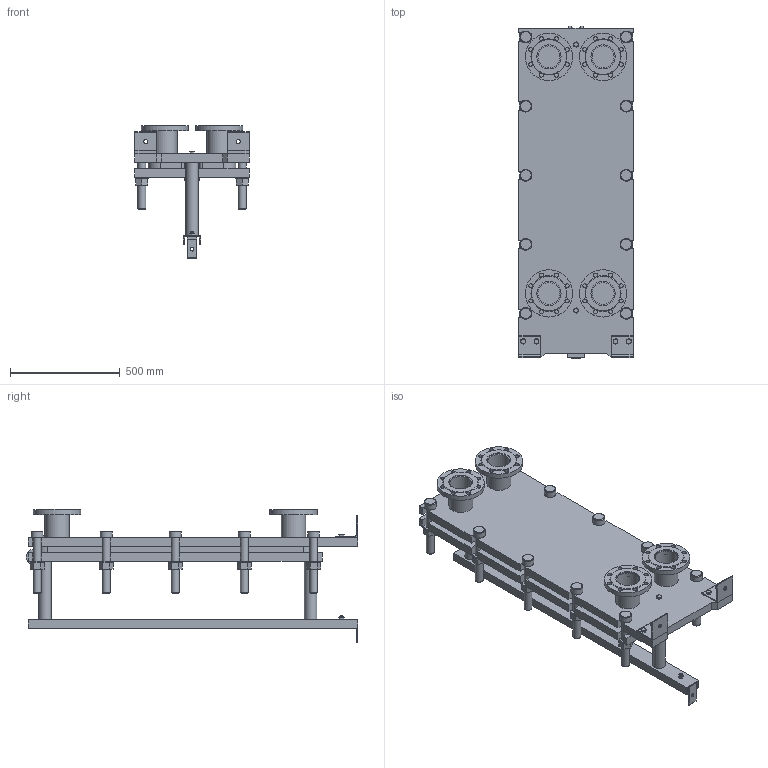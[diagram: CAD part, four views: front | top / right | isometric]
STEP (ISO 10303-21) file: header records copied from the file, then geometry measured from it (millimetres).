
FILE_DESCRIPTION(/* description */ (''),/* implementation_level */ '2;1');
FILE_NAME(/* name */ 'C:\Users\zhuro\Desktop\ENCO\TO\ЭН-04\ЭН-0,5-04-8-1.stp',/* time_stamp */ '2022-06-06T10:45:07+03:00',/* author */ ('zhuro'),/* organization */ (''),/* preprocessor_version */ 'ST-DEVELOPER v18.1',/* originating_system */ 'Autodesk Inventor 2022',/* authorisation */ '');
FILE_SCHEMA (('AUTOMOTIVE_DESIGN { 1 0 10303 214 3 1 1 }'));
Length unit declared in the file: millimetre
Products named in the file (1): ЭН-0,5-04-8-1
Bounding box: 520 x 1510 x 609 mm (x, y, z)
Volume: 80046609.7 mm3; surface area: 6332173.2 mm2
Topology: 45 solids, 45 shells, 668 faces, 1611 edges, 1048 vertices
Faces by surface type: plane 457, cylinder 166, cone 39, torus 6
Full cylindrical faces by diameter (mm): 8 x4, 10 x2, 16 x8, 18 x35, 36 x25, 40 x2, 42 x1, 45 x4, 54 x10, 57 x2, 60 x10, 68 x2, 100 x4, 110 x8, 215 x4
Entity records: 23607 total; most frequent: CARTESIAN_POINT 7348, DIRECTION 3371, ORIENTED_EDGE 3142, EDGE_CURVE 1571, AXIS2_PLACEMENT_3D 1199, VERTEX_POINT 1044, LINE 973, VECTOR 973
